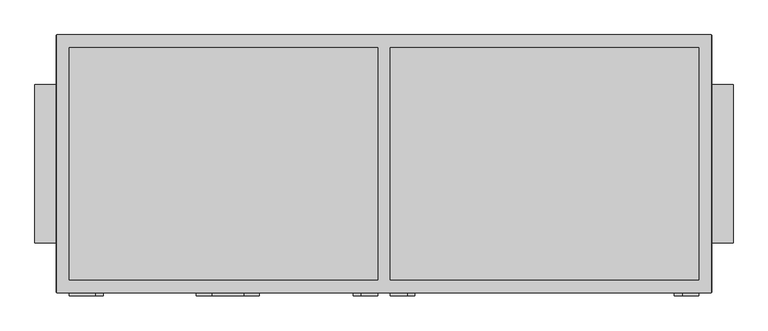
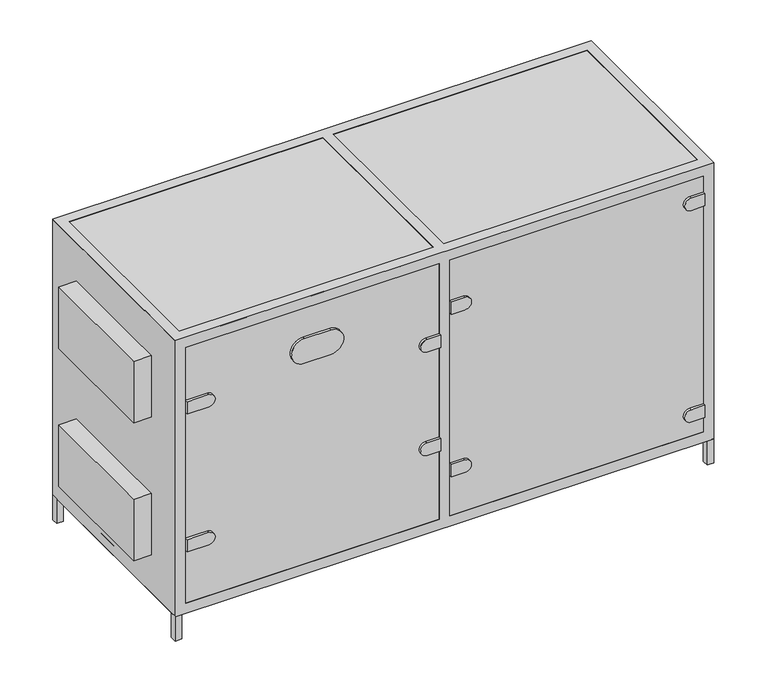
"""IFC4 building model written with IfcOpenShell, lengths in millimetres: proxy geometry, AVS 2200...3800-S-RC(RG)-R : AVS 2200-S-RC-R."""

import ifcopenshell
import ifcopenshell.guid

model = None  # the IFC model being written
_history = None  # IfcOwnerHistory: only IFC2X3 demands one
_inside = {}  # id of a spatial element -> (the spatial element, [elements in it])
_under = {}  # id of a project, library or spatial element -> (it, [spatial elements below it])
_declared = {}  # id of a project -> (the project, [libraries it declares])
_typed = {}  # id of a type object -> (the type object, [elements of that type])
_made_of = {}  # id of a material, layer set ... -> (it, [elements and type objects made of it])


def new_model(schema):
    """Start an empty IFC model of exactly this schema.

    Asked for "IFC4X3", IfcOpenShell would pick the latest addendum, in which some entities
    have other attributes; the version numbers below select the first issue.
    IFC2X3 requires an IfcOwnerHistory on every rooted entity: one is made here for all.
    """
    global model, _history
    if schema == "IFC4X3":
        model = ifcopenshell.file(schema_version=(4, 3, 0, 0))
    else:
        model = ifcopenshell.file(schema=schema)
    _inside.clear()
    _under.clear()
    _declared.clear()
    _typed.clear()
    _made_of.clear()
    _history = None
    if model.schema == "IFC2X3":
        org = make("IfcOrganization", Name="unknown")
        user = make(
            "IfcPersonAndOrganization",
            ThePerson=make("IfcPerson", FamilyName="unknown"),
            TheOrganization=org,
        )
        app = make(
            "IfcApplication",
            ApplicationDeveloper=org,
            Version="unknown",
            ApplicationFullName="unknown",
            ApplicationIdentifier="unknown",
        )
        _history = make(
            "IfcOwnerHistory",
            OwningUser=user,
            OwningApplication=app,
            ChangeAction="ADDED",
            CreationDate=0,
        )
    return model


def make(cls, **values):
    """One entity of the class cls with the attributes given. An attribute that is None is left unset."""
    return model.create_entity(
        cls, **{name: value for name, value in values.items() if value is not None}
    )


def rooted(cls, **values):
    """An entity with a GlobalId (a new one), such as an element, a storey or a relation."""
    return make(cls, GlobalId=ifcopenshell.guid.new(), OwnerHistory=_history, **values)


def si_unit(unit_type, name, prefix=None):
    """IfcSIUnit, for example si_unit("LENGTHUNIT", "METRE", prefix="MILLI")."""
    return make("IfcSIUnit", UnitType=unit_type, Prefix=prefix, Name=name)


def assignment(units):
    """IfcUnitAssignment: the units of a project."""
    return None if units is None else make("IfcUnitAssignment", Units=units)


def point(xyz):
    """IfcCartesianPoint."""
    return None if xyz is None else make("IfcCartesianPoint", Coordinates=xyz)


def direction(xyz):
    """IfcDirection."""
    return None if xyz is None else make("IfcDirection", DirectionRatios=xyz)


def frame(location, z_axis=None, x_axis=None):
    """IfcAxis2Placement3D, a coordinate frame: its origin and axes. An axis left out is left unset."""
    return make(
        "IfcAxis2Placement3D",
        Location=point(location),
        Axis=direction(z_axis),
        RefDirection=direction(x_axis),
    )


def frame_2d(location, x_axis=None):
    """IfcAxis2Placement2D, a coordinate frame in the plane: its origin and x axis."""
    return make(
        "IfcAxis2Placement2D", Location=point(location), RefDirection=direction(x_axis)
    )


def origin():
    """The frame at (0, 0, 0) with its axes left unset."""
    return frame((0.0, 0.0, 0.0))


def origin_with_axes():
    """The frame at (0, 0, 0) with the z axis (0, 0, 1) and the x axis (1, 0, 0) written out."""
    return frame((0.0, 0.0, 0.0), z_axis=(0.0, 0.0, 1.0), x_axis=(1.0, 0.0, 0.0))


def place(relative_to, where):
    """IfcLocalPlacement: puts the frame where relative to a parent placement (None: the world)."""
    return make(
        "IfcLocalPlacement", PlacementRelTo=relative_to, RelativePlacement=where
    )


def context(
    kind, dimensions, precision=None, world=None, true_north=None, identifier=None
):
    """IfcGeometricRepresentationContext, for example the 3D "Model" context."""
    return make(
        "IfcGeometricRepresentationContext",
        ContextIdentifier=identifier,
        ContextType=kind,
        CoordinateSpaceDimension=dimensions,
        Precision=precision,
        WorldCoordinateSystem=world,
        TrueNorth=true_north,
    )


def project(units=None, contexts=None):
    """IfcProject with its units and contexts."""
    return rooted(
        "IfcProject",
        Name="project",
        RepresentationContexts=contexts,
        UnitsInContext=assignment(units),
    )


def spatial(cls, under=None, at=None, **own):
    """A site, building, storey or space (cls), placed at a placement, below another one or the project."""
    s = rooted(cls, ObjectPlacement=at, **own)
    if under is not None:
        _under.setdefault(under.id(), (under, []))[1].append(s)
    return s


def polyline(points):
    """IfcPolyline through the points."""
    return make("IfcPolyline", Points=[point(p) for p in points])


def circle_curve(where, radius):
    """IfcCircle in the frame where."""
    return make("IfcCircle", Position=where, Radius=radius)


def trimmed(basis, trim1, trim2, sense, master):
    """IfcTrimmedCurve: the piece of a basis curve between two trims."""
    return make(
        "IfcTrimmedCurve",
        BasisCurve=basis,
        Trim1=trim1,
        Trim2=trim2,
        SenseAgreement=sense,
        MasterRepresentation=master,
    )


def segment(curve, same_sense, transition):
    """IfcCompositeCurveSegment."""
    return make(
        "IfcCompositeCurveSegment",
        Transition=transition,
        SameSense=same_sense,
        ParentCurve=curve,
    )


def composite_curve(segments, self_intersect=None):
    """IfcCompositeCurve: segments joined end to end."""
    return make("IfcCompositeCurve", Segments=segments, SelfIntersect=self_intersect)


def outline(outer, holes=None, kind="AREA"):
    """IfcArbitraryClosedProfileDef: a profile drawn as a closed curve; with holes, ...WithVoids."""
    if holes is None:
        return make("IfcArbitraryClosedProfileDef", ProfileType=kind, OuterCurve=outer)
    return make(
        "IfcArbitraryProfileDefWithVoids",
        ProfileType=kind,
        OuterCurve=outer,
        InnerCurves=holes,
    )


def extrude(swept, where, along, depth):
    """IfcExtrudedAreaSolid: the profile swept, set in the frame where, extruded along a direction by depth."""
    return make(
        "IfcExtrudedAreaSolid",
        SweptArea=swept,
        Position=where,
        ExtrudedDirection=direction(along),
        Depth=depth,
    )


def faces_of(points, faces, orient=None, outer=None):
    """IfcFace entities. A face is a list of loops; a loop is a list of indices into points, from 0.

    orient and outer hold one flag for each loop. By default every Orientation is true, the
    first loop of a face is its IfcFaceOuterBound and the others are IfcFaceBound.
    """
    made = []
    for i, loops in enumerate(faces):
        bounds = []
        for j, loop in enumerate(loops):
            is_outer = j == 0 if outer is None else outer[i][j]
            bounds.append(
                make(
                    "IfcFaceOuterBound" if is_outer else "IfcFaceBound",
                    Bound=make("IfcPolyLoop", Polygon=[points[k] for k in loop]),
                    Orientation=True if orient is None else orient[i][j],
                )
            )
        made.append(make("IfcFace", Bounds=bounds))
    return made


def faceted_brep(points, faces, orient=None, outer=None, voids=None):
    """IfcFacetedBrep: a solid bounded by flat faces; with voids (closed shells), ...WithVoids."""
    shared = [point(p) for p in points]
    hull = make("IfcClosedShell", CfsFaces=faces_of(shared, faces, orient, outer))
    if voids is None:
        return make("IfcFacetedBrep", Outer=hull)
    return make(
        "IfcFacetedBrepWithVoids",
        Outer=hull,
        Voids=[
            make(cls, CfsFaces=faces_of(shared, fs, o, b)) for cls, fs, o, b in voids
        ],
    )


def shape(context_of_items, identifier, shape_type, items):
    """IfcShapeRepresentation: the items that make up one representation, for example the "Body"."""
    return make(
        "IfcShapeRepresentation",
        ContextOfItems=context_of_items,
        RepresentationIdentifier=identifier,
        RepresentationType=shape_type,
        Items=items,
    )


def source(mapping_origin, context_of_items, identifier, shape_type, items):
    """IfcRepresentationMap: a shape defined once, which mapped items show again and again."""
    return make(
        "IfcRepresentationMap",
        MappingOrigin=mapping_origin,
        MappedRepresentation=shape(context_of_items, identifier, shape_type, items),
    )


def transform(
    local_origin,
    x_axis=None,
    y_axis=None,
    z_axis=None,
    scale=None,
    scale2=None,
    scale3=None,
    uniform=True,
):
    """IfcCartesianTransformationOperator3D, or its non-uniform kind. x_axis, y_axis, z_axis: its Axis1, 2, 3."""
    if uniform:
        return make(
            "IfcCartesianTransformationOperator3D",
            Axis1=direction(x_axis),
            Axis2=direction(y_axis),
            LocalOrigin=point(local_origin),
            Scale=scale,
            Axis3=direction(z_axis),
        )
    return make(
        "IfcCartesianTransformationOperator3DnonUniform",
        Axis1=direction(x_axis),
        Axis2=direction(y_axis),
        LocalOrigin=point(local_origin),
        Scale=scale,
        Axis3=direction(z_axis),
        Scale2=scale2,
        Scale3=scale3,
    )


def mapped(mapping_source, mapping_target):
    """IfcMappedItem: shows the shape of a source again, moved by a transform."""
    return make(
        "IfcMappedItem", MappingSource=mapping_source, MappingTarget=mapping_target
    )


def made_of(thing, what):
    """Note that an element or type object is made of a material, layer set ...; save() writes the relation."""
    if what is not None:
        _made_of.setdefault(what.id(), (what, []))[1].append(thing)
    return thing


def element(
    cls,
    number,
    at=None,
    inside=None,
    cuts=None,
    type_object=None,
    material=None,
    context=None,
    identifier="Body",
    shape_type=None,
    held_by="IfcProductDefinitionShape",
    body=None,
    shapes=None,
    **own,
):
    """One element of the class cls, such as IfcWall. Its Tag is "e" and its number.

    at: its placement. inside: the storey or other place that contains it. cuts: it is an
    opening in that element (IfcRelVoidsElement). A single representation is given by context,
    identifier, shape_type and body (its items); several are given by shapes. held_by: the class
    of the entity that holds the representations. save() writes the other relations.
    """
    e = rooted(cls, Tag="e%d" % number, ObjectPlacement=at, **own)
    if body is not None:
        shapes = [shape(context, identifier, shape_type, body)]
    if shapes is not None:
        e.Representation = make(held_by, Representations=shapes)
    if inside is not None:
        _inside.setdefault(inside.id(), (inside, []))[1].append(e)
    if cuts is not None:
        rooted(
            "IfcRelVoidsElement", RelatingBuildingElement=cuts, RelatedOpeningElement=e
        )
    if type_object is not None:
        _typed.setdefault(type_object.id(), (type_object, []))[1].append(e)
    return made_of(e, material)


def aggregate(whole, parts):
    """IfcRelAggregates: a whole, such as a stair, and the parts it consists of."""
    return rooted("IfcRelAggregates", RelatingObject=whole, RelatedObjects=parts)


def save(model, path):
    """Write the relations noted so far, then the file.

    IfcRelAggregates (storeys below a building ...), IfcRelContainedInSpatialStructure (elements
    in a storey), IfcRelDefinesByType, IfcRelAssociatesMaterial and IfcRelDeclares: one each for
    every whole, place, type object, material and project.
    """
    for whole, parts in _under.values():
        aggregate(whole, parts)
    for where, things in _inside.values():
        rooted(
            "IfcRelContainedInSpatialStructure",
            RelatedElements=things,
            RelatingStructure=where,
        )
    for kind, things in _typed.values():
        rooted("IfcRelDefinesByType", RelatedObjects=things, RelatingType=kind)
    for what, things in _made_of.values():
        rooted("IfcRelAssociatesMaterial", RelatedObjects=things, RelatingMaterial=what)
    for by, libraries in _declared.values():
        rooted("IfcRelDeclares", RelatingContext=by, RelatedDefinitions=libraries)
    model.write(path)


def mechanical_equipment_d3b09ded(model_context):
    return source(origin(), model_context, "Body", "SolidModel", [
        extrude(outline(polyline([(1010.0, 407.0), (1035.0, 407.0), (1035.0, 382.0), (1010.0, 382.0), (1010.0, 407.0)])), origin_with_axes(), (0.0, 0.0, 1.0), 100.0),
        extrude(outline(polyline([(1010.0, -407.0), (1010.0, -382.0), (1035.0, -382.0), (1035.0, -407.0), (1010.0, -407.0)])), origin_with_axes(), (0.0, 0.0, 1.0), 100.0),
        extrude(outline(polyline([(-1035.0, 382.0), (-1035.0, 407.0), (-1010.0, 407.0), (-1010.0, 382.0), (-1035.0, 382.0)])), origin_with_axes(), (0.0, 0.0, 1.0), 100.0),
        extrude(outline(polyline([(-1035.0, -382.0), (-1010.0, -382.0), (-1010.0, -407.0), (-1035.0, -407.0), (-1035.0, -382.0)])), origin_with_axes(), (0.0, 0.0, 1.0), 100.0),
        faceted_brep([(1034.0, 408.0, 1222.0), (-1034.0, 408.0, 1222.0), (-1034.0, -408.0, 1222.0), (1034.0, -408.0, 1222.0), (995.0, 367.0, 1222.0), (995.0, -367.0, 1222.0), (20.0, -367.0, 1222.0), (20.0, 367.0, 1222.0), (-995.0, 367.0, 1222.0), (-20.0, 367.0, 1222.0), (-20.0, -367.0, 1222.0), (-995.0, -367.0, 1222.0), (1034.0, 408.0, 99.0), (1034.0, -408.0, 99.0), (-1034.0, -408.0, 99.0), (-1034.0, 408.0, 99.0), (995.0, -367.0, 99.0), (995.0, 367.0, 99.0), (20.0, 367.0, 99.0), (20.0, -367.0, 99.0), (-20.0, 367.0, 99.0), (-995.0, 367.0, 99.0), (-995.0, -367.0, 99.0), (-20.0, -367.0, 99.0), (-20.0, 408.0, 1181.0), (-995.0, 408.0, 1181.0), (-995.0, 408.0, 140.0), (-20.0, 408.0, 140.0), (995.0, 408.0, 140.0), (995.0, 408.0, 1181.0), (20.0, 408.0, 1181.0), (20.0, 408.0, 140.0), (-1034.0, -367.0, 1181.0), (-1034.0, -367.0, 140.0), (-1034.0, 367.0, 140.0), (-1034.0, 367.0, 1181.0), (-995.0, -408.0, 1181.0), (-20.0, -408.0, 1181.0), (-20.0, -408.0, 140.0), (-995.0, -408.0, 140.0), (995.0, -408.0, 1181.0), (995.0, -408.0, 140.0), (20.0, -408.0, 140.0), (20.0, -408.0, 1181.0), (1034.0, -367.0, 140.0), (1034.0, -367.0, 1181.0), (1034.0, 367.0, 1181.0), (1034.0, 367.0, 140.0), (-995.0, 367.0, 1181.0), (-20.0, 367.0, 1181.0), (-20.0, 367.0, 140.0), (-995.0, 367.0, 140.0), (-20.0, -367.0, 1181.0), (-995.0, -367.0, 1181.0), (-995.0, -367.0, 140.0), (-20.0, -367.0, 140.0), (995.0, 367.0, 1181.0), (995.0, -367.0, 1181.0), (995.0, -367.0, 140.0), (995.0, 367.0, 140.0), (20.0, 367.0, 1181.0), (20.0, -367.0, 1181.0), (20.0, -367.0, 140.0), (20.0, 367.0, 140.0)], [[[0, 1, 2, 3], [4, 5, 6, 7], [8, 9, 10, 11]], [[12, 13, 14, 15], [16, 17, 18, 19], [20, 21, 22, 23]], [[1, 0, 12, 15], [24, 25, 26, 27], [28, 29, 30, 31]], [[2, 1, 15, 14], [32, 33, 34, 35]], [[3, 2, 14, 13], [36, 37, 38, 39], [40, 41, 42, 43]], [[0, 3, 13, 12], [44, 45, 46, 47]], [[9, 8, 48, 49]], [[21, 20, 50, 51]], [[11, 10, 52, 53]], [[23, 22, 54, 55]], [[5, 4, 56, 57]], [[17, 16, 58, 59]], [[40, 57, 58, 41]], [[56, 29, 28, 59]], [[35, 48, 53, 32]], [[45, 57, 56, 46]], [[49, 60, 61, 52]], [[51, 34, 33, 54]], [[47, 59, 58, 44]], [[55, 62, 63, 50]], [[36, 53, 52, 37]], [[24, 49, 48, 25]], [[54, 39, 38, 55]], [[50, 27, 26, 51]], [[32, 53, 54, 33]], [[52, 61, 62, 55]], [[44, 58, 57, 45]], [[48, 35, 34, 51]], [[60, 49, 50, 63]], [[59, 47, 46, 56]], [[8, 11, 53, 48]], [[22, 21, 51, 54]], [[53, 36, 39, 54]], [[25, 48, 51, 26]], [[10, 9, 49, 52]], [[20, 23, 55, 50]], [[37, 52, 55, 38]], [[49, 24, 27, 50]], [[4, 7, 60, 56]], [[18, 17, 59, 63]], [[7, 6, 61, 60]], [[19, 18, 63, 62]], [[30, 60, 63, 31]], [[61, 43, 42, 62]], [[57, 40, 43, 61]], [[29, 56, 60, 30]], [[41, 58, 62, 42]], [[59, 28, 31, 63]], [[6, 5, 57, 61]], [[16, 19, 62, 58]]]),
        extrude(outline(polyline([(-1035.0, 407.0), (1035.0, 407.0), (1035.0, -407.0), (-1035.0, -407.0), (-1035.0, 407.0)])), frame((0.0, 0.0, 100.0), z_axis=(0.0, 0.0, 1.0), x_axis=(1.0, 0.0, 0.0)), (0.0, 0.0, 1.0), 1121.0),
        extrude(outline(composite_curve([segment(polyline([(965.75, -912.2895396), (965.75, -995.0), (915.75, -995.0), (915.75, -912.2895396)]), True, "CONTINUOUS"), segment(trimmed(circle_curve(frame_2d((940.75, -912.2895396)), 25.0), [point((915.75, -912.2895396))], [point((965.75, -912.2895396))], False, "CARTESIAN"), True, "CONTINUOUS")], self_intersect=False)), frame((0.0, -418.0, 0.0), z_axis=(0.0, 1.0, 0.0), x_axis=(0.0, 0.0, 1.0)), (0.0, 0.0, 1.0), 11.0),
        extrude(outline(composite_curve([segment(polyline([(405.25, -912.2895396), (405.25, -995.0), (355.25, -995.0), (355.25, -912.2895396)]), True, "CONTINUOUS"), segment(trimmed(circle_curve(frame_2d((380.25, -912.2895396)), 25.0), [point((355.25, -912.2895396))], [point((405.25, -912.2895396))], False, "CARTESIAN"), True, "CONTINUOUS")], self_intersect=False)), frame((0.0, -418.0, 0.0), z_axis=(0.0, 1.0, 0.0), x_axis=(0.0, 0.0, 1.0)), (0.0, 0.0, 1.0), 11.0),
        extrude(outline(composite_curve([segment(trimmed(circle_curve(frame_2d((870.75, -72.7104604)), 25.0), [point((895.75, -72.7104604))], [point((845.75, -72.7104604))], False, "CARTESIAN"), True, "CONTINUOUS"), segment(polyline([(845.75, -72.7104604), (845.75, -20.0), (895.75, -20.0), (895.75, -72.7104604)]), True, "CONTINUOUS")], self_intersect=False)), frame((0.0, -418.0, 0.0), z_axis=(0.0, 1.0, 0.0), x_axis=(0.0, 0.0, 1.0)), (0.0, 0.0, 1.0), 11.0),
        extrude(outline(composite_curve([segment(polyline([(425.25, -72.7104604), (425.25, -20.0), (475.25, -20.0), (475.25, -72.7104604)]), True, "CONTINUOUS"), segment(trimmed(circle_curve(frame_2d((450.25, -72.7104604)), 25.0), [point((475.25, -72.7104604))], [point((425.25, -72.7104604))], False, "CARTESIAN"), True, "CONTINUOUS")], self_intersect=False)), frame((0.0, -418.0, 0.0), z_axis=(0.0, 1.0, 0.0), x_axis=(0.0, 0.0, 1.0)), (0.0, 0.0, 1.0), 11.0),
        extrude(outline(composite_curve([segment(trimmed(circle_curve(frame_2d((1090.75, 942.2895396)), 25.0), [point((1115.75, 942.2895396))], [point((1065.75, 942.2895396))], False, "CARTESIAN"), True, "CONTINUOUS"), segment(polyline([(1065.75, 942.2895396), (1065.75, 995.0), (1115.75, 995.0), (1115.75, 942.2895396)]), True, "CONTINUOUS")], self_intersect=False)), frame((0.0, -418.0, 0.0), z_axis=(0.0, 1.0, 0.0), x_axis=(0.0, 0.0, 1.0)), (0.0, 0.0, 1.0), 11.0),
        extrude(outline(composite_curve([segment(polyline([(205.25, 942.2895396), (205.25, 995.0), (255.25, 995.0), (255.25, 942.2895396)]), True, "CONTINUOUS"), segment(trimmed(circle_curve(frame_2d((230.25, 942.2895396)), 25.0), [point((255.25, 942.2895396))], [point((205.25, 942.2895396))], False, "CARTESIAN"), True, "CONTINUOUS")], self_intersect=False)), frame((0.0, -418.0, 0.0), z_axis=(0.0, 1.0, 0.0), x_axis=(0.0, 0.0, 1.0)), (0.0, 0.0, 1.0), 11.0),
        extrude(outline(composite_curve([segment(polyline([(1015.75, 72.7104604), (1015.75, 20.0), (965.75, 20.0), (965.75, 72.7104604)]), True, "CONTINUOUS"), segment(trimmed(circle_curve(frame_2d((990.75, 72.7104604)), 25.0), [point((965.75, 72.7104604))], [point((1015.75, 72.7104604))], False, "CARTESIAN"), True, "CONTINUOUS")], self_intersect=False)), frame((0.0, -418.0, 0.0), z_axis=(0.0, 1.0, 0.0), x_axis=(0.0, 0.0, 1.0)), (0.0, 0.0, 1.0), 11.0),
        extrude(outline(composite_curve([segment(trimmed(circle_curve(frame_2d((330.25, 72.7104604)), 25.0), [point((305.25, 72.7104604))], [point((355.25, 72.7104604))], False, "CARTESIAN"), True, "CONTINUOUS"), segment(polyline([(355.25, 72.7104604), (355.25, 20.0), (305.25, 20.0), (305.25, 72.7104604)]), True, "CONTINUOUS")], self_intersect=False)), frame((0.0, -418.0, 0.0), z_axis=(0.0, 1.0, 0.0), x_axis=(0.0, 0.0, 1.0)), (0.0, 0.0, 1.0), 11.0),
        extrude(outline(composite_curve([segment(polyline([(1064.7031077, -443.4249776), (1064.7031077, -543.4249776)]), True, "CONTINUOUS"), segment(trimmed(circle_curve(frame_2d((1014.7031077, -543.4249776)), 50.0), [point((1064.7031077, -543.4249776))], [point((964.7031077, -543.4249776))], False, "CARTESIAN"), True, "CONTINUOUS"), segment(polyline([(964.7031077, -543.4249776), (964.7031077, -443.4249776)]), True, "CONTINUOUS"), segment(trimmed(circle_curve(frame_2d((1014.7031077, -443.4249776)), 50.0), [point((964.7031077, -443.4249776))], [point((1064.7031077, -443.4249776))], False, "CARTESIAN"), True, "CONTINUOUS")], self_intersect=False)), frame((0.0, -418.0, 0.0), z_axis=(0.0, 1.0, 0.0), x_axis=(0.0, 0.0, 1.0)), (0.0, 0.0, 1.0), 11.0),
        extrude(outline(polyline([(-1103.0, -250.0), (-1103.0, 250.0), (-1035.0, 250.0), (-1035.0, -250.0), (-1103.0, -250.0)])), frame((0.0, 0.0, 815.75), z_axis=(0.0, 0.0, 1.0), x_axis=(1.0, 0.0, 0.0)), (0.0, 0.0, 1.0), 250.0),
        extrude(outline(polyline([(-1103.0, -250.0), (-1103.0, 250.0), (-1035.0, 250.0), (-1035.0, -250.0), (-1103.0, -250.0)])), frame((0.0, 0.0, 255.25), z_axis=(0.0, 0.0, 1.0), x_axis=(1.0, 0.0, 0.0)), (0.0, 0.0, 1.0), 250.0),
        extrude(outline(polyline([(1103.0, 250.0), (1103.0, -250.0), (1035.0, -250.0), (1035.0, 250.0), (1103.0, 250.0)])), frame((0.0, 0.0, 815.75), z_axis=(0.0, 0.0, 1.0), x_axis=(1.0, 0.0, 0.0)), (0.0, 0.0, 1.0), 250.0),
        extrude(outline(polyline([(1103.0, 250.0), (1103.0, -250.0), (1035.0, -250.0), (1035.0, 250.0), (1103.0, 250.0)])), frame((0.0, 0.0, 255.25), z_axis=(0.0, 0.0, 1.0), x_axis=(1.0, 0.0, 0.0)), (0.0, 0.0, 1.0), 250.0),
    ])


if __name__ == "__main__":
    model = new_model("IFC4")
    model_context = context("Model", 3, world=origin())
    ifc_project = project(units=[si_unit("LENGTHUNIT", "METRE", prefix="MILLI")], contexts=[model_context])
    site = spatial("IfcSite", under=ifc_project)
    building = spatial("IfcBuilding", under=site)
    placement = place(None, origin())
    mechanical_equipment_shape = mechanical_equipment_d3b09ded(model_context)
    element("IfcBuildingElementProxy", 1, Name="AVS 2200...3800-S-RC(RG)-R : AVS 2200-S-RC-R", ObjectType="AVS 2200...3800-S-RC(RG)-R : AVS 2200-S-RC-R", at=placement, inside=building, context=model_context, shape_type="MappedRepresentation", body=[
        mapped(mechanical_equipment_shape, transform((0.0, 0.0, 0.0), x_axis=(1.0, 0.0, 0.0), y_axis=(0.0, 1.0, 0.0), z_axis=(0.0, 0.0, 1.0))),
    ])
    save(model, "model.ifc")
